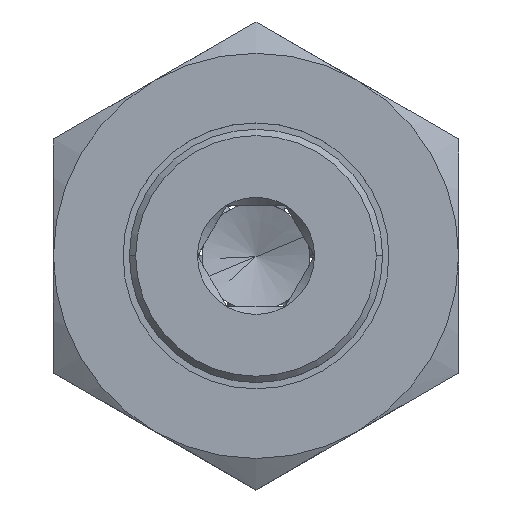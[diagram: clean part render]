
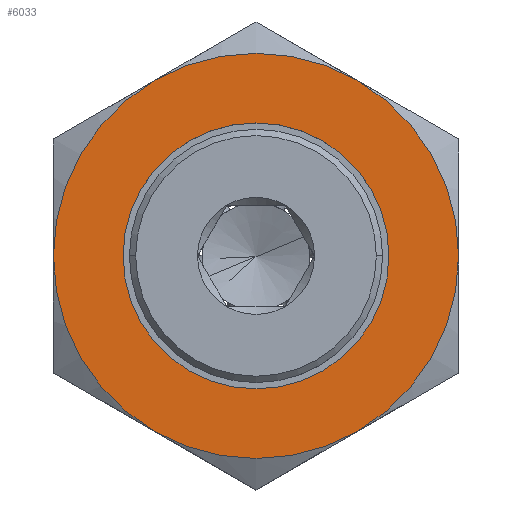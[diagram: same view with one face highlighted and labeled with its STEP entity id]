
A CAD part, top view. The second image highlights one B-rep face of the part: STEP entity #6033.
In plain terms, the highlighted planar face has unit normal (0, 0, 1).
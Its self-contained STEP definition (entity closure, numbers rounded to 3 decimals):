
#120 = CARTESIAN_POINT ( 'NONE',  ( -10.5, 0., 6. ) ) ;
#208 = CIRCLE ( 'NONE', #16209, 10.5 ) ;
#243 = CARTESIAN_POINT ( 'NONE',  ( 0., 0., 6. ) ) ;
#788 = EDGE_LOOP ( 'NONE', ( #1897, #15044 ) ) ;
#821 = VERTEX_POINT ( 'NONE', #4429 ) ;
#835 = AXIS2_PLACEMENT_3D ( 'NONE', #2122, #11343, #3436 ) ;
#1165 = CIRCLE ( 'NONE', #5441, 16. ) ;
#1428 = DIRECTION ( 'NONE',  ( 0., 0., -1. ) ) ;
#1528 = ORIENTED_EDGE ( 'NONE', *, *, #10607, .F. ) ;
#1569 = DIRECTION ( 'NONE',  ( 1., 0., 0. ) ) ;
#1747 = EDGE_CURVE ( 'NONE', #821, #6486, #3783, .T. ) ;
#1897 = ORIENTED_EDGE ( 'NONE', *, *, #4831, .F. ) ;
#1982 = CARTESIAN_POINT ( 'NONE',  ( 0., 0., 6. ) ) ;
#2112 = VERTEX_POINT ( 'NONE', #5179 ) ;
#2122 = CARTESIAN_POINT ( 'NONE',  ( 0., 0., 6. ) ) ;
#2554 = EDGE_LOOP ( 'NONE', ( #5772, #1528, #16672, #15978, #14621, #12300 ) ) ;
#2746 = DIRECTION ( 'NONE',  ( 0., 0., -1. ) ) ;
#3301 = DIRECTION ( 'NONE',  ( 1., 0., 0. ) ) ;
#3337 = EDGE_CURVE ( 'NONE', #5374, #5663, #1165, .T. ) ;
#3368 = VERTEX_POINT ( 'NONE', #120 ) ;
#3399 = FACE_BOUND ( 'NONE', #788, .T. ) ;
#3436 = DIRECTION ( 'NONE',  ( 1., 0., 0. ) ) ;
#3783 = CIRCLE ( 'NONE', #4702, 16. ) ;
#3814 = PLANE ( 'NONE',  #10604 ) ;
#3992 = DIRECTION ( 'NONE',  ( 0., 0., -1. ) ) ;
#4429 = CARTESIAN_POINT ( 'NONE',  ( -16., 0., 6. ) ) ;
#4702 = AXIS2_PLACEMENT_3D ( 'NONE', #9287, #1428, #10611 ) ;
#4831 = EDGE_CURVE ( 'NONE', #10069, #3368, #14344, .T. ) ;
#5168 = DIRECTION ( 'NONE',  ( 0., 0., 1. ) ) ;
#5179 = CARTESIAN_POINT ( 'NONE',  ( 8., 13.856, 6. ) ) ;
#5374 = VERTEX_POINT ( 'NONE', #11856 ) ;
#5441 = AXIS2_PLACEMENT_3D ( 'NONE', #11907, #3992, #13255 ) ;
#5663 = VERTEX_POINT ( 'NONE', #8687 ) ;
#5772 = ORIENTED_EDGE ( 'NONE', *, *, #3337, .F. ) ;
#6033 = ADVANCED_FACE ( 'NONE', ( #3399, #17023 ), #3814, .T. ) ;
#6080 = DIRECTION ( 'NONE',  ( 0., 0., -1. ) ) ;
#6486 = VERTEX_POINT ( 'NONE', #7200 ) ;
#6657 = AXIS2_PLACEMENT_3D ( 'NONE', #10624, #2746, #11951 ) ;
#7200 = CARTESIAN_POINT ( 'NONE',  ( -8., 13.856, 6. ) ) ;
#7359 = CARTESIAN_POINT ( 'NONE',  ( 0., 0., 6. ) ) ;
#8682 = DIRECTION ( 'NONE',  ( 1., 0., 0. ) ) ;
#8687 = CARTESIAN_POINT ( 'NONE',  ( 8., -13.856, 6. ) ) ;
#9287 = CARTESIAN_POINT ( 'NONE',  ( 0., 0., 6. ) ) ;
#9445 = DIRECTION ( 'NONE',  ( 0., 0., -1. ) ) ;
#9574 = CARTESIAN_POINT ( 'NONE',  ( -8., -13.856, 6. ) ) ;
#9910 = CIRCLE ( 'NONE', #11220, 16. ) ;
#10000 = AXIS2_PLACEMENT_3D ( 'NONE', #14020, #6080, #15346 ) ;
#10069 = VERTEX_POINT ( 'NONE', #12428 ) ;
#10604 = AXIS2_PLACEMENT_3D ( 'NONE', #13120, #5168, #14466 ) ;
#10607 = EDGE_CURVE ( 'NONE', #2112, #5374, #12263, .T. ) ;
#10611 = DIRECTION ( 'NONE',  ( -1., 0., 0. ) ) ;
#10624 = CARTESIAN_POINT ( 'NONE',  ( 0., 0., 6. ) ) ;
#11198 = DIRECTION ( 'NONE',  ( 0., 0., 1. ) ) ;
#11220 = AXIS2_PLACEMENT_3D ( 'NONE', #243, #9445, #1569 ) ;
#11343 = DIRECTION ( 'NONE',  ( 0., 0., -1. ) ) ;
#11856 = CARTESIAN_POINT ( 'NONE',  ( 16., 0., 6. ) ) ;
#11907 = CARTESIAN_POINT ( 'NONE',  ( 0., 0., 6. ) ) ;
#11950 = EDGE_CURVE ( 'NONE', #13516, #821, #16343, .T. ) ;
#11951 = DIRECTION ( 'NONE',  ( 1., 0., 0. ) ) ;
#12263 = CIRCLE ( 'NONE', #835, 16. ) ;
#12300 = ORIENTED_EDGE ( 'NONE', *, *, #16617, .F. ) ;
#12428 = CARTESIAN_POINT ( 'NONE',  ( 10.5, 0., 6. ) ) ;
#13120 = CARTESIAN_POINT ( 'NONE',  ( 0., -18.475, 6. ) ) ;
#13255 = DIRECTION ( 'NONE',  ( 1., 0., 0. ) ) ;
#13516 = VERTEX_POINT ( 'NONE', #9574 ) ;
#13788 = CIRCLE ( 'NONE', #6657, 16. ) ;
#14020 = CARTESIAN_POINT ( 'NONE',  ( 0., 0., 6. ) ) ;
#14344 = CIRCLE ( 'NONE', #16146, 10.5 ) ;
#14466 = DIRECTION ( 'NONE',  ( 1., 0., 0. ) ) ;
#14621 = ORIENTED_EDGE ( 'NONE', *, *, #11950, .F. ) ;
#15044 = ORIENTED_EDGE ( 'NONE', *, *, #16741, .F. ) ;
#15346 = DIRECTION ( 'NONE',  ( 1., 0., 0. ) ) ;
#15978 = ORIENTED_EDGE ( 'NONE', *, *, #1747, .F. ) ;
#16146 = AXIS2_PLACEMENT_3D ( 'NONE', #1982, #11198, #3301 ) ;
#16209 = AXIS2_PLACEMENT_3D ( 'NONE', #7359, #16618, #8682 ) ;
#16343 = CIRCLE ( 'NONE', #10000, 16. ) ;
#16617 = EDGE_CURVE ( 'NONE', #5663, #13516, #9910, .T. ) ;
#16618 = DIRECTION ( 'NONE',  ( 0., 0., 1. ) ) ;
#16672 = ORIENTED_EDGE ( 'NONE', *, *, #16909, .F. ) ;
#16741 = EDGE_CURVE ( 'NONE', #3368, #10069, #208, .T. ) ;
#16909 = EDGE_CURVE ( 'NONE', #6486, #2112, #13788, .T. ) ;
#17023 = FACE_OUTER_BOUND ( 'NONE', #2554, .T. ) ;
